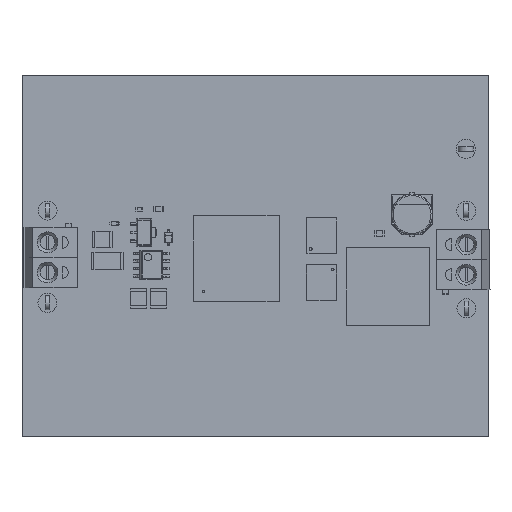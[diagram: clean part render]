
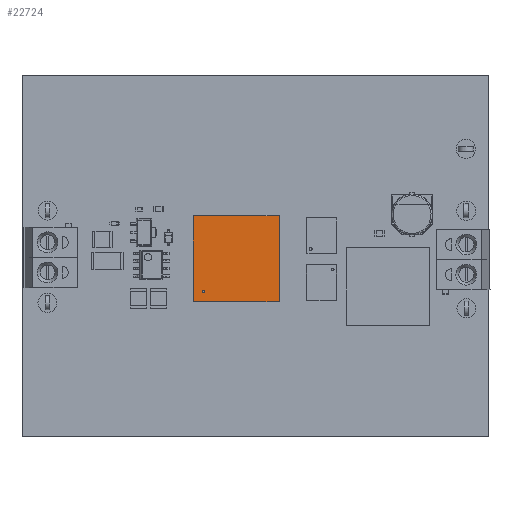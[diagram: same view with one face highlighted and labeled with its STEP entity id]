
A CAD part, top view. The second image highlights one B-rep face of the part: STEP entity #22724.
In plain terms, the highlighted planar face has unit normal (0, 0, 1).
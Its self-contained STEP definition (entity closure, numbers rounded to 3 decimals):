
#22256 = VERTEX_POINT('',#22257);
#22257 = CARTESIAN_POINT('',(-7.25,-7.25,14.));
#22264 = PLANE('',#22265);
#22265 = AXIS2_PLACEMENT_3D('',#22266,#22267,#22268);
#22266 = CARTESIAN_POINT('',(-7.25,-7.25,0.));
#22267 = DIRECTION('',(0.707,0.707,0.));
#22268 = DIRECTION('',(0.707,-0.707,0.));
#22276 = PLANE('',#22277);
#22277 = AXIS2_PLACEMENT_3D('',#22278,#22279,#22280);
#22278 = CARTESIAN_POINT('',(-7.25,7.25,0.));
#22279 = DIRECTION('',(1.,0.,0.));
#22280 = DIRECTION('',(0.,-1.,0.));
#22288 = EDGE_CURVE('',#22256,#22289,#22291,.T.);
#22289 = VERTEX_POINT('',#22290);
#22290 = CARTESIAN_POINT('',(-7.25,-7.25,14.));
#22291 = SURFACE_CURVE('',#22292,(#22296,#22303),.PCURVE_S1.);
#22292 = LINE('',#22293,#22294);
#22293 = CARTESIAN_POINT('',(-7.25,-7.25,14.));
#22294 = VECTOR('',#22295,1.);
#22295 = DIRECTION('',(0.707,-0.707,0.));
#22296 = PCURVE('',#22264,#22297);
#22297 = DEFINITIONAL_REPRESENTATION('',(#22298),#22302);
#22298 = LINE('',#22299,#22300);
#22299 = CARTESIAN_POINT('',(0.,-14.));
#22300 = VECTOR('',#22301,1.);
#22301 = DIRECTION('',(1.,0.));
#22302 = ( GEOMETRIC_REPRESENTATION_CONTEXT(2) 
PARAMETRIC_REPRESENTATION_CONTEXT() REPRESENTATION_CONTEXT('2D SPACE',''
  ) );
#22303 = PCURVE('',#22304,#22309);
#22304 = PLANE('',#22305);
#22305 = AXIS2_PLACEMENT_3D('',#22306,#22307,#22308);
#22306 = CARTESIAN_POINT('',(-7.25,-7.25,14.));
#22307 = DIRECTION('',(0.,0.,-1.));
#22308 = DIRECTION('',(-1.,0.,0.));
#22309 = DEFINITIONAL_REPRESENTATION('',(#22310),#22314);
#22310 = LINE('',#22311,#22312);
#22311 = CARTESIAN_POINT('',(0.,0.));
#22312 = VECTOR('',#22313,1.);
#22313 = DIRECTION('',(-0.707,-0.707));
#22314 = ( GEOMETRIC_REPRESENTATION_CONTEXT(2) 
PARAMETRIC_REPRESENTATION_CONTEXT() REPRESENTATION_CONTEXT('2D SPACE',''
  ) );
#22332 = PLANE('',#22333);
#22333 = AXIS2_PLACEMENT_3D('',#22334,#22335,#22336);
#22334 = CARTESIAN_POINT('',(-7.25,-7.25,0.));
#22335 = DIRECTION('',(0.,1.,0.));
#22336 = DIRECTION('',(1.,0.,0.));
#22374 = EDGE_CURVE('',#22289,#22375,#22377,.T.);
#22375 = VERTEX_POINT('',#22376);
#22376 = CARTESIAN_POINT('',(7.25,-7.25,14.));
#22377 = SURFACE_CURVE('',#22378,(#22382,#22389),.PCURVE_S1.);
#22378 = LINE('',#22379,#22380);
#22379 = CARTESIAN_POINT('',(-7.25,-7.25,14.));
#22380 = VECTOR('',#22381,1.);
#22381 = DIRECTION('',(1.,0.,0.));
#22382 = PCURVE('',#22332,#22383);
#22383 = DEFINITIONAL_REPRESENTATION('',(#22384),#22388);
#22384 = LINE('',#22385,#22386);
#22385 = CARTESIAN_POINT('',(0.,-14.));
#22386 = VECTOR('',#22387,1.);
#22387 = DIRECTION('',(1.,0.));
#22388 = ( GEOMETRIC_REPRESENTATION_CONTEXT(2) 
PARAMETRIC_REPRESENTATION_CONTEXT() REPRESENTATION_CONTEXT('2D SPACE',''
  ) );
#22389 = PCURVE('',#22304,#22390);
#22390 = DEFINITIONAL_REPRESENTATION('',(#22391),#22395);
#22391 = LINE('',#22392,#22393);
#22392 = CARTESIAN_POINT('',(0.,0.)
  );
#22393 = VECTOR('',#22394,1.);
#22394 = DIRECTION('',(-1.,0.));
#22395 = ( GEOMETRIC_REPRESENTATION_CONTEXT(2) 
PARAMETRIC_REPRESENTATION_CONTEXT() REPRESENTATION_CONTEXT('2D SPACE',''
  ) );
#22413 = PLANE('',#22414);
#22414 = AXIS2_PLACEMENT_3D('',#22415,#22416,#22417);
#22415 = CARTESIAN_POINT('',(7.25,-7.25,0.));
#22416 = DIRECTION('',(-1.,0.,0.));
#22417 = DIRECTION('',(0.,1.,0.));
#22450 = EDGE_CURVE('',#22375,#22451,#22453,.T.);
#22451 = VERTEX_POINT('',#22452);
#22452 = CARTESIAN_POINT('',(7.25,7.25,14.));
#22453 = SURFACE_CURVE('',#22454,(#22458,#22465),.PCURVE_S1.);
#22454 = LINE('',#22455,#22456);
#22455 = CARTESIAN_POINT('',(7.25,-7.25,14.));
#22456 = VECTOR('',#22457,1.);
#22457 = DIRECTION('',(0.,1.,0.));
#22458 = PCURVE('',#22413,#22459);
#22459 = DEFINITIONAL_REPRESENTATION('',(#22460),#22464);
#22460 = LINE('',#22461,#22462);
#22461 = CARTESIAN_POINT('',(0.,-14.));
#22462 = VECTOR('',#22463,1.);
#22463 = DIRECTION('',(1.,0.));
#22464 = ( GEOMETRIC_REPRESENTATION_CONTEXT(2) 
PARAMETRIC_REPRESENTATION_CONTEXT() REPRESENTATION_CONTEXT('2D SPACE',''
  ) );
#22465 = PCURVE('',#22304,#22466);
#22466 = DEFINITIONAL_REPRESENTATION('',(#22467),#22471);
#22467 = LINE('',#22468,#22469);
#22468 = CARTESIAN_POINT('',(-14.5,0.));
#22469 = VECTOR('',#22470,1.);
#22470 = DIRECTION('',(0.,1.));
#22471 = ( GEOMETRIC_REPRESENTATION_CONTEXT(2) 
PARAMETRIC_REPRESENTATION_CONTEXT() REPRESENTATION_CONTEXT('2D SPACE',''
  ) );
#22489 = PLANE('',#22490);
#22490 = AXIS2_PLACEMENT_3D('',#22491,#22492,#22493);
#22491 = CARTESIAN_POINT('',(7.25,7.25,0.));
#22492 = DIRECTION('',(-0.707,-0.707,0.));
#22493 = DIRECTION('',(-0.707,0.707,0.));
#22526 = EDGE_CURVE('',#22451,#22527,#22529,.T.);
#22527 = VERTEX_POINT('',#22528);
#22528 = CARTESIAN_POINT('',(7.25,7.25,14.));
#22529 = SURFACE_CURVE('',#22530,(#22534,#22541),.PCURVE_S1.);
#22530 = LINE('',#22531,#22532);
#22531 = CARTESIAN_POINT('',(7.25,7.25,14.));
#22532 = VECTOR('',#22533,1.);
#22533 = DIRECTION('',(-0.707,0.707,0.));
#22534 = PCURVE('',#22489,#22535);
#22535 = DEFINITIONAL_REPRESENTATION('',(#22536),#22540);
#22536 = LINE('',#22537,#22538);
#22537 = CARTESIAN_POINT('',(0.,-14.));
#22538 = VECTOR('',#22539,1.);
#22539 = DIRECTION('',(1.,0.));
#22540 = ( GEOMETRIC_REPRESENTATION_CONTEXT(2) 
PARAMETRIC_REPRESENTATION_CONTEXT() REPRESENTATION_CONTEXT('2D SPACE',''
  ) );
#22541 = PCURVE('',#22304,#22542);
#22542 = DEFINITIONAL_REPRESENTATION('',(#22543),#22547);
#22543 = LINE('',#22544,#22545);
#22544 = CARTESIAN_POINT('',(-14.5,14.5));
#22545 = VECTOR('',#22546,1.);
#22546 = DIRECTION('',(0.707,0.707));
#22547 = ( GEOMETRIC_REPRESENTATION_CONTEXT(2) 
PARAMETRIC_REPRESENTATION_CONTEXT() REPRESENTATION_CONTEXT('2D SPACE',''
  ) );
#22565 = PLANE('',#22566);
#22566 = AXIS2_PLACEMENT_3D('',#22567,#22568,#22569);
#22567 = CARTESIAN_POINT('',(7.25,7.25,0.));
#22568 = DIRECTION('',(0.,-1.,0.));
#22569 = DIRECTION('',(-1.,0.,0.));
#22602 = EDGE_CURVE('',#22527,#22603,#22605,.T.);
#22603 = VERTEX_POINT('',#22604);
#22604 = CARTESIAN_POINT('',(-7.25,7.25,14.));
#22605 = SURFACE_CURVE('',#22606,(#22610,#22617),.PCURVE_S1.);
#22606 = LINE('',#22607,#22608);
#22607 = CARTESIAN_POINT('',(7.25,7.25,14.));
#22608 = VECTOR('',#22609,1.);
#22609 = DIRECTION('',(-1.,0.,0.));
#22610 = PCURVE('',#22565,#22611);
#22611 = DEFINITIONAL_REPRESENTATION('',(#22612),#22616);
#22612 = LINE('',#22613,#22614);
#22613 = CARTESIAN_POINT('',(0.,-14.));
#22614 = VECTOR('',#22615,1.);
#22615 = DIRECTION('',(1.,0.));
#22616 = ( GEOMETRIC_REPRESENTATION_CONTEXT(2) 
PARAMETRIC_REPRESENTATION_CONTEXT() REPRESENTATION_CONTEXT('2D SPACE',''
  ) );
#22617 = PCURVE('',#22304,#22618);
#22618 = DEFINITIONAL_REPRESENTATION('',(#22619),#22623);
#22619 = LINE('',#22620,#22621);
#22620 = CARTESIAN_POINT('',(-14.5,14.5));
#22621 = VECTOR('',#22622,1.);
#22622 = DIRECTION('',(1.,0.));
#22623 = ( GEOMETRIC_REPRESENTATION_CONTEXT(2) 
PARAMETRIC_REPRESENTATION_CONTEXT() REPRESENTATION_CONTEXT('2D SPACE',''
  ) );
#22673 = EDGE_CURVE('',#22603,#22256,#22674,.T.);
#22674 = SURFACE_CURVE('',#22675,(#22679,#22686),.PCURVE_S1.);
#22675 = LINE('',#22676,#22677);
#22676 = CARTESIAN_POINT('',(-7.25,7.25,14.));
#22677 = VECTOR('',#22678,1.);
#22678 = DIRECTION('',(0.,-1.,0.));
#22679 = PCURVE('',#22276,#22680);
#22680 = DEFINITIONAL_REPRESENTATION('',(#22681),#22685);
#22681 = LINE('',#22682,#22683);
#22682 = CARTESIAN_POINT('',(0.,-14.));
#22683 = VECTOR('',#22684,1.);
#22684 = DIRECTION('',(1.,0.));
#22685 = ( GEOMETRIC_REPRESENTATION_CONTEXT(2) 
PARAMETRIC_REPRESENTATION_CONTEXT() REPRESENTATION_CONTEXT('2D SPACE',''
  ) );
#22686 = PCURVE('',#22304,#22687);
#22687 = DEFINITIONAL_REPRESENTATION('',(#22688),#22692);
#22688 = LINE('',#22689,#22690);
#22689 = CARTESIAN_POINT('',(0.,14.5));
#22690 = VECTOR('',#22691,1.);
#22691 = DIRECTION('',(0.,-1.));
#22692 = ( GEOMETRIC_REPRESENTATION_CONTEXT(2) 
PARAMETRIC_REPRESENTATION_CONTEXT() REPRESENTATION_CONTEXT('2D SPACE',''
  ) );
#22724 = ADVANCED_FACE('',(#22725),#22304,.F.);
#22725 = FACE_BOUND('',#22726,.T.);
#22726 = EDGE_LOOP('',(#22727,#22728,#22729,#22730,#22731,#22732));
#22727 = ORIENTED_EDGE('',*,*,#22288,.T.);
#22728 = ORIENTED_EDGE('',*,*,#22374,.T.);
#22729 = ORIENTED_EDGE('',*,*,#22450,.T.);
#22730 = ORIENTED_EDGE('',*,*,#22526,.T.);
#22731 = ORIENTED_EDGE('',*,*,#22602,.T.);
#22732 = ORIENTED_EDGE('',*,*,#22673,.T.);
